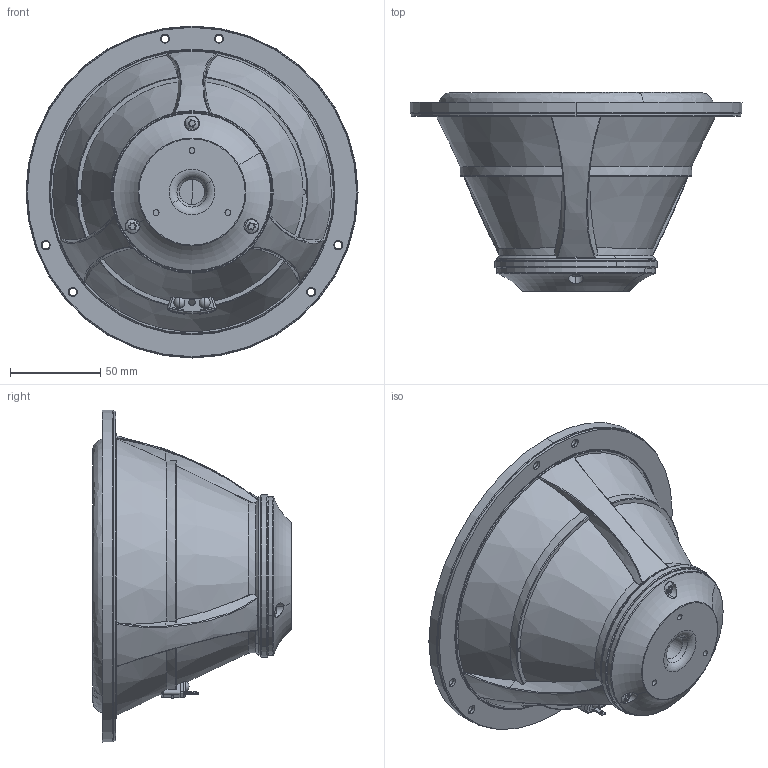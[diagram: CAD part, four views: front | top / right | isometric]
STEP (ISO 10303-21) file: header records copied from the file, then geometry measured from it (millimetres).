
FILE_DESCRIPTION (( 'STEP AP214' ), '1' );
FILE_NAME ('18WU-4741T00.STEP', '2020-11-23T10:33:43', ( '' ), ( '' ), 'SwSTEP 2.0', 'SolidWorks 2019', '' );
FILE_SCHEMA (( 'AUTOMOTIVE_DESIGN' ));
Length unit declared in the file: millimetre
Products named in the file (1): 18WU-4741T00
Bounding box: 184 x 110.25 x 184 mm (x, y, z)
Volume: 1047777.4 mm3; surface area: 117203.6 mm2
Topology: 1 solids, 9 shells, 589 faces, 1691 edges, 1076 vertices
Faces by surface type: cylinder 155, cone 121, plane 116, bspline 97, torus 84, sphere 16
Entity records: 40247 total; most frequent: CARTESIAN_POINT 20222, ORIENTED_EDGE 3370, DIRECTION 2563, EDGE_CURVE 1685, AXIS2_PLACEMENT_3D 1112, VERTEX_POINT 1076, B_SPLINE_CURVE_WITH_KNOTS 660, EDGE_LOOP 633
